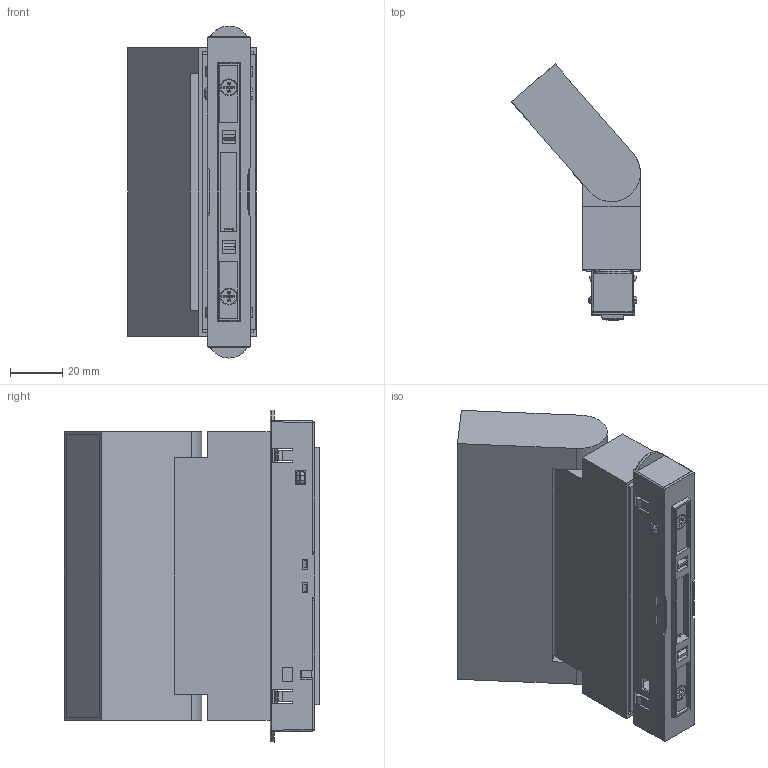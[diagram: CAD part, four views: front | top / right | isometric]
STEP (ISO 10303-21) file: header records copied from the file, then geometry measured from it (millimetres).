
FILE_DESCRIPTION((''),'2;1');
FILE_NAME('ZHEDIE_GESHAN-DUANKUAN-110_ASM','2022-11-11T',('Administrator'),(''),'PRO/ENGINEER BY PARAMETRIC TECHNOLOGY CORPORATION, 2015070','PRO/ENGINEER BY PARAMETRIC TECHNOLOGY CORPORATION, 2015070','');
FILE_SCHEMA(('CONFIG_CONTROL_DESIGN','SHAPE_APPEARANCE_LAYERS_GROUPS'));
Length unit declared in the file: millimetre
Products named in the file (17): ZHIJIA_DUANKUAN_SHANGGAI; ZHIJIA_DUANKUAN; ZHIJIA_0_105MM; MANIFOLD_SOLID_BREP_5136_8; MANIFOLD_SOLID_BREP_45179; MANIFOLD_SOLID_BREP_53625; 08-22-W1_37_ASM_ASM; MANIFOLD_SOLID_BREP_5134_2; ________________M3X6; 08-20-PC1_6; MANIFOLD_SOLID_BREP_41700; DK-1_0406A_14_59_ASM_ASM; 03_X_T; 20__________________________GN-_ASM; 20_CIXI_ASM; 108X19MM_PMMA; ZHEDIE_GESHAN-DUANKUAN-110_ASM
Assembly tree (17 placements, depth 5):
  ZHEDIE_GESHAN-DUANKUAN-110_ASM
    ZHIJIA_DUANKUAN_SHANGGAI
    ZHIJIA_DUANKUAN
    ZHIJIA_0_105MM
    20_CIXI_ASM
      20__________________________GN-_ASM
        MANIFOLD_SOLID_BREP_5136_8
        08-22-W1_37_ASM_ASM
          MANIFOLD_SOLID_BREP_45179
          MANIFOLD_SOLID_BREP_53625
        MANIFOLD_SOLID_BREP_5134_2
        ________________M3X6  x2
        08-20-PC1_6
        DK-1_0406A_14_59_ASM_ASM
          MANIFOLD_SOLID_BREP_41700
        03_X_T
    108X19MM_PMMA
Bounding box: 49.09 x 97.48 x 126.5 mm (x, y, z)
Volume: 96800.7 mm3; surface area: 83068.1 mm2
Topology: 12 solids, 14 shells, 954 faces, 2609 edges, 1704 vertices
Faces by surface type: plane 714, cylinder 142, bspline 44, cone 36, torus 18
Entity records: 32090 total; most frequent: CARTESIAN_POINT 8120, ORIENTED_EDGE 5116, DIRECTION 4491, EDGE_CURVE 2561, VECTOR 2069, LINE 2069, VERTEX_POINT 1678, AXIS2_PLACEMENT_3D 1211
